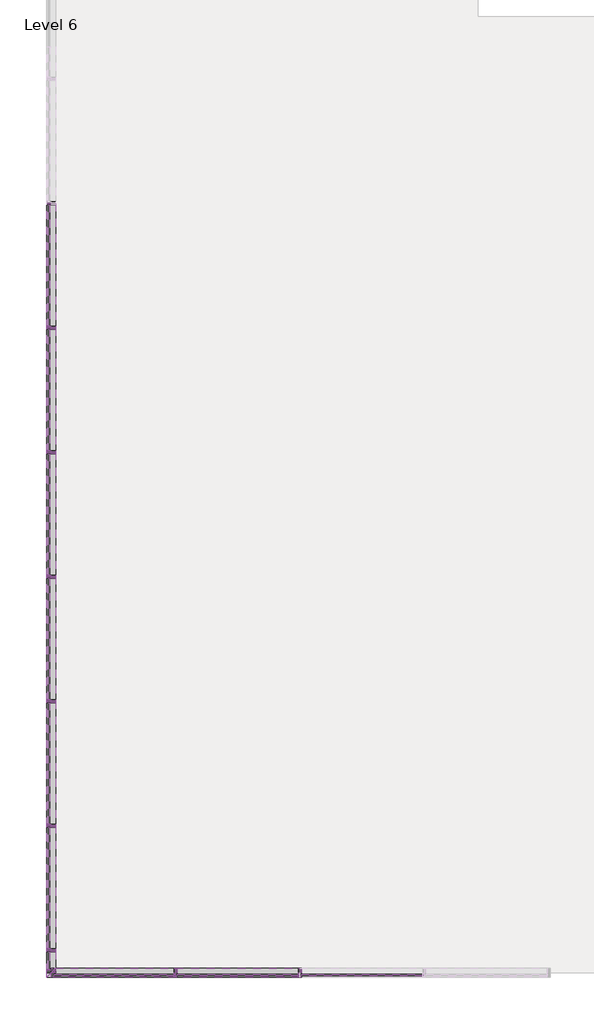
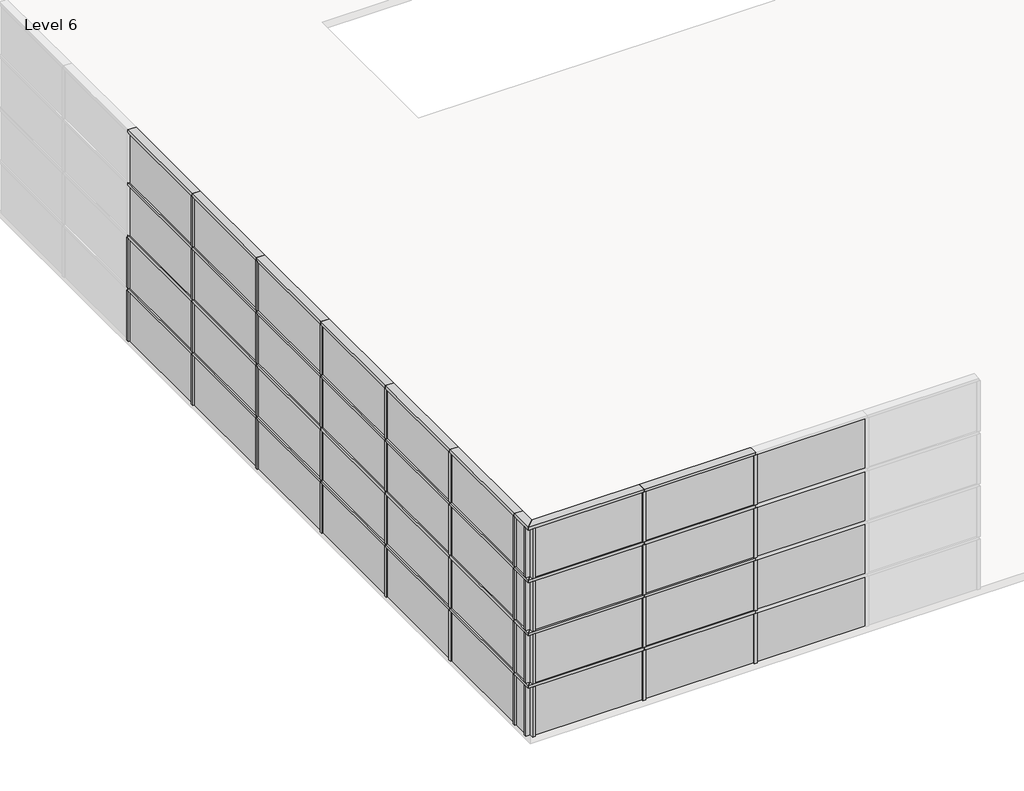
# One storey, part 1 of 5: 78 members, 40 plates.
"""IFC4 building model written with IfcOpenShell, lengths in millimetres."""

from ifc_helpers import new_model, si_unit, origin, place, context, project, spatial, transform, mapped, element, save
from components import rectangular_mullion_50_x_150mm_a053b0ca, rectangular_mullion_50_x_150mm_3a148f0f, rectangular_mullion_50_x_150mm_12a430f9, rectangular_mullion_50_x_150mm_cc09da6b, rectangular_mullion_50_x_150mm_947845bb, system_panel_glazed_751a585c, system_panel_glazed_08de6f5f, system_panel_glazed_9a47c754

model = new_model("IFC4")

# Units and contexts
model_context = context("Model", 3, world=origin())
ifc_project = project(units=[si_unit("LENGTHUNIT", "METRE", prefix="MILLI")], contexts=[model_context])

# Site, building, storey
site = spatial("IfcSite", under=ifc_project)
building = spatial("IfcBuilding", under=site)
storey = spatial("IfcBuildingStorey", under=building, Name="Level 6", Elevation=20000.0)

# Members
placement = place(None, origin())
rectangular_mullion_50_x_150mm_shape = rectangular_mullion_50_x_150mm_a053b0ca(model_context)
element("IfcMember", 1, ObjectType="Rectangular Mullion : 50 x 150mm", at=placement, inside=storey, context=model_context, shape_type="MappedRepresentation", body=[
    mapped(rectangular_mullion_50_x_150mm_shape, transform((-3587.173406, -21988.7417365, 20025.0), x_axis=(1.0, 0.0, 0.0), y_axis=(0.0, -1.0, 0.0), z_axis=(0.0, 0.0, -0.9999999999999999))),
])
element("IfcMember", 2, ObjectType="Rectangular Mullion : 50 x 150mm", at=placement, inside=storey, context=model_context, shape_type="MappedRepresentation", body=[
    mapped(rectangular_mullion_50_x_150mm_shape, transform((-3587.173406, -21988.7417365, 21025.0), x_axis=(1.0, 0.0, 0.0), y_axis=(0.0, -1.0, 0.0), z_axis=(0.0, 0.0, -0.9999999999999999))),
])
element("IfcMember", 3, ObjectType="Rectangular Mullion : 50 x 150mm", at=placement, inside=storey, context=model_context, shape_type="MappedRepresentation", body=[
    mapped(rectangular_mullion_50_x_150mm_shape, transform((-3587.173406, -21988.7417365, 22025.0), x_axis=(1.0, 0.0, 0.0), y_axis=(0.0, -1.0, 0.0), z_axis=(0.0, 0.0, -0.9999999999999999))),
])
element("IfcMember", 4, ObjectType="Rectangular Mullion : 50 x 150mm", at=placement, inside=storey, context=model_context, shape_type="MappedRepresentation", body=[
    mapped(rectangular_mullion_50_x_150mm_shape, transform((-3587.173406, -21988.7417365, 23025.0), x_axis=(1.0, 0.0, 0.0), y_axis=(0.0, -1.0, 0.0), z_axis=(0.0, 0.0, -0.9999999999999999))),
])
element("IfcMember", 5, ObjectType="Rectangular Mullion : 50 x 150mm", at=placement, inside=storey, context=model_context, shape_type="MappedRepresentation", body=[
    mapped(rectangular_mullion_50_x_150mm_shape, transform((-1587.173406, -21988.7417365, 20025.0), x_axis=(1.0, 0.0, 0.0), y_axis=(0.0, -1.0, 0.0), z_axis=(0.0, 0.0, -0.9999999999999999))),
])
element("IfcMember", 6, ObjectType="Rectangular Mullion : 50 x 150mm", at=placement, inside=storey, context=model_context, shape_type="MappedRepresentation", body=[
    mapped(rectangular_mullion_50_x_150mm_shape, transform((-1587.173406, -21988.7417365, 21025.0), x_axis=(1.0, 0.0, 0.0), y_axis=(0.0, -1.0, 0.0), z_axis=(0.0, 0.0, -0.9999999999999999))),
])
element("IfcMember", 7, ObjectType="Rectangular Mullion : 50 x 150mm", at=placement, inside=storey, context=model_context, shape_type="MappedRepresentation", body=[
    mapped(rectangular_mullion_50_x_150mm_shape, transform((-1587.173406, -21988.7417365, 22025.0), x_axis=(1.0, 0.0, 0.0), y_axis=(0.0, -1.0, 0.0), z_axis=(0.0, 0.0, -0.9999999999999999))),
])
element("IfcMember", 8, ObjectType="Rectangular Mullion : 50 x 150mm", at=placement, inside=storey, context=model_context, shape_type="MappedRepresentation", body=[
    mapped(rectangular_mullion_50_x_150mm_shape, transform((-1587.173406, -21988.7417365, 23025.0), x_axis=(1.0, 0.0, 0.0), y_axis=(0.0, -1.0, 0.0), z_axis=(0.0, 0.0, -0.9999999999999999))),
])
element("IfcMember", 9, ObjectType="Rectangular Mullion : 50 x 150mm", at=placement, inside=storey, context=model_context, shape_type="MappedRepresentation", body=[
    mapped(rectangular_mullion_50_x_150mm_shape, transform((-5587.173406, -9624.0160434, 20025.0), x_axis=(0.0, -1.0, 0.0), y_axis=(-1.0, 0.0, 0.0), z_axis=(0.0, 0.0, -0.9999999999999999))),
])
element("IfcMember", 10, ObjectType="Rectangular Mullion : 50 x 150mm", at=placement, inside=storey, context=model_context, shape_type="MappedRepresentation", body=[
    mapped(rectangular_mullion_50_x_150mm_shape, transform((-5587.173406, -9624.0160434, 21025.0), x_axis=(0.0, -1.0, 0.0), y_axis=(-1.0, 0.0, 0.0), z_axis=(0.0, 0.0, -0.9999999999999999))),
])
element("IfcMember", 11, ObjectType="Rectangular Mullion : 50 x 150mm", at=placement, inside=storey, context=model_context, shape_type="MappedRepresentation", body=[
    mapped(rectangular_mullion_50_x_150mm_shape, transform((-5587.173406, -11624.0160434, 20025.0), x_axis=(0.0, -1.0, 0.0), y_axis=(-1.0, 0.0, 0.0), z_axis=(0.0, 0.0, -0.9999999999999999))),
])
element("IfcMember", 12, ObjectType="Rectangular Mullion : 50 x 150mm", at=placement, inside=storey, context=model_context, shape_type="MappedRepresentation", body=[
    mapped(rectangular_mullion_50_x_150mm_shape, transform((-5587.173406, -11624.0160434, 21025.0), x_axis=(0.0, -1.0, 0.0), y_axis=(-1.0, 0.0, 0.0), z_axis=(0.0, 0.0, -0.9999999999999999))),
])
element("IfcMember", 13, ObjectType="Rectangular Mullion : 50 x 150mm", at=placement, inside=storey, context=model_context, shape_type="MappedRepresentation", body=[
    mapped(rectangular_mullion_50_x_150mm_shape, transform((-5587.173406, -11624.0160434, 22025.0), x_axis=(0.0, -1.0, 0.0), y_axis=(-1.0, 0.0, 0.0), z_axis=(0.0, 0.0, -0.9999999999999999))),
])
element("IfcMember", 14, ObjectType="Rectangular Mullion : 50 x 150mm", at=placement, inside=storey, context=model_context, shape_type="MappedRepresentation", body=[
    mapped(rectangular_mullion_50_x_150mm_shape, transform((-5587.173406, -11624.0160434, 23025.0), x_axis=(0.0, -1.0, 0.0), y_axis=(-1.0, 0.0, 0.0), z_axis=(0.0, 0.0, -0.9999999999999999))),
])
element("IfcMember", 15, ObjectType="Rectangular Mullion : 50 x 150mm", at=placement, inside=storey, context=model_context, shape_type="MappedRepresentation", body=[
    mapped(rectangular_mullion_50_x_150mm_shape, transform((-5587.173406, -13624.0160434, 20025.0), x_axis=(0.0, -1.0, 0.0), y_axis=(-1.0, 0.0, 0.0), z_axis=(0.0, 0.0, -0.9999999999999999))),
])
element("IfcMember", 16, ObjectType="Rectangular Mullion : 50 x 150mm", at=placement, inside=storey, context=model_context, shape_type="MappedRepresentation", body=[
    mapped(rectangular_mullion_50_x_150mm_shape, transform((-5587.173406, -13624.0160434, 21025.0), x_axis=(0.0, -1.0, 0.0), y_axis=(-1.0, 0.0, 0.0), z_axis=(0.0, 0.0, -0.9999999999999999))),
])
element("IfcMember", 17, ObjectType="Rectangular Mullion : 50 x 150mm", at=placement, inside=storey, context=model_context, shape_type="MappedRepresentation", body=[
    mapped(rectangular_mullion_50_x_150mm_shape, transform((-5587.173406, -13624.0160434, 22025.0), x_axis=(0.0, -1.0, 0.0), y_axis=(-1.0, 0.0, 0.0), z_axis=(0.0, 0.0, -0.9999999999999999))),
])
element("IfcMember", 18, ObjectType="Rectangular Mullion : 50 x 150mm", at=placement, inside=storey, context=model_context, shape_type="MappedRepresentation", body=[
    mapped(rectangular_mullion_50_x_150mm_shape, transform((-5587.173406, -13624.0160434, 23025.0), x_axis=(0.0, -1.0, 0.0), y_axis=(-1.0, 0.0, 0.0), z_axis=(0.0, 0.0, -0.9999999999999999))),
])
element("IfcMember", 19, ObjectType="Rectangular Mullion : 50 x 150mm", at=placement, inside=storey, context=model_context, shape_type="MappedRepresentation", body=[
    mapped(rectangular_mullion_50_x_150mm_shape, transform((-5587.173406, -15624.0160434, 20025.0), x_axis=(0.0, -1.0, 0.0), y_axis=(-1.0, 0.0, 0.0), z_axis=(0.0, 0.0, -0.9999999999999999))),
])
element("IfcMember", 20, ObjectType="Rectangular Mullion : 50 x 150mm", at=placement, inside=storey, context=model_context, shape_type="MappedRepresentation", body=[
    mapped(rectangular_mullion_50_x_150mm_shape, transform((-5587.173406, -15624.0160434, 21025.0), x_axis=(0.0, -1.0, 0.0), y_axis=(-1.0, 0.0, 0.0), z_axis=(0.0, 0.0, -0.9999999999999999))),
])
element("IfcMember", 21, ObjectType="Rectangular Mullion : 50 x 150mm", at=placement, inside=storey, context=model_context, shape_type="MappedRepresentation", body=[
    mapped(rectangular_mullion_50_x_150mm_shape, transform((-5587.173406, -15624.0160434, 22025.0), x_axis=(0.0, -1.0, 0.0), y_axis=(-1.0, 0.0, 0.0), z_axis=(0.0, 0.0, -0.9999999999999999))),
])
element("IfcMember", 22, ObjectType="Rectangular Mullion : 50 x 150mm", at=placement, inside=storey, context=model_context, shape_type="MappedRepresentation", body=[
    mapped(rectangular_mullion_50_x_150mm_shape, transform((-5587.173406, -15624.0160434, 23025.0), x_axis=(0.0, -1.0, 0.0), y_axis=(-1.0, 0.0, 0.0), z_axis=(0.0, 0.0, -0.9999999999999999))),
])
element("IfcMember", 23, ObjectType="Rectangular Mullion : 50 x 150mm", at=placement, inside=storey, context=model_context, shape_type="MappedRepresentation", body=[
    mapped(rectangular_mullion_50_x_150mm_shape, transform((-5587.173406, -17624.0160434, 20025.0), x_axis=(0.0, -1.0, 0.0), y_axis=(-1.0, 0.0, 0.0), z_axis=(0.0, 0.0, -0.9999999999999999))),
])
element("IfcMember", 24, ObjectType="Rectangular Mullion : 50 x 150mm", at=placement, inside=storey, context=model_context, shape_type="MappedRepresentation", body=[
    mapped(rectangular_mullion_50_x_150mm_shape, transform((-5587.173406, -17624.0160434, 21025.0), x_axis=(0.0, -1.0, 0.0), y_axis=(-1.0, 0.0, 0.0), z_axis=(0.0, 0.0, -0.9999999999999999))),
])
element("IfcMember", 25, ObjectType="Rectangular Mullion : 50 x 150mm", at=placement, inside=storey, context=model_context, shape_type="MappedRepresentation", body=[
    mapped(rectangular_mullion_50_x_150mm_shape, transform((-5587.173406, -17624.0160434, 22025.0), x_axis=(0.0, -1.0, 0.0), y_axis=(-1.0, 0.0, 0.0), z_axis=(0.0, 0.0, -0.9999999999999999))),
])
element("IfcMember", 26, ObjectType="Rectangular Mullion : 50 x 150mm", at=placement, inside=storey, context=model_context, shape_type="MappedRepresentation", body=[
    mapped(rectangular_mullion_50_x_150mm_shape, transform((-5587.173406, -17624.0160434, 23025.0), x_axis=(0.0, -1.0, 0.0), y_axis=(-1.0, 0.0, 0.0), z_axis=(0.0, 0.0, -0.9999999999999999))),
])
element("IfcMember", 27, ObjectType="Rectangular Mullion : 50 x 150mm", at=placement, inside=storey, context=model_context, shape_type="MappedRepresentation", body=[
    mapped(rectangular_mullion_50_x_150mm_shape, transform((-5587.173406, -19624.0160434, 20025.0), x_axis=(0.0, -1.0, 0.0), y_axis=(-1.0, 0.0, 0.0), z_axis=(0.0, 0.0, -0.9999999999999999))),
])
element("IfcMember", 28, ObjectType="Rectangular Mullion : 50 x 150mm", at=placement, inside=storey, context=model_context, shape_type="MappedRepresentation", body=[
    mapped(rectangular_mullion_50_x_150mm_shape, transform((-5587.173406, -19624.0160434, 21025.0), x_axis=(0.0, -1.0, 0.0), y_axis=(-1.0, 0.0, 0.0), z_axis=(0.0, 0.0, -0.9999999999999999))),
])
element("IfcMember", 29, ObjectType="Rectangular Mullion : 50 x 150mm", at=placement, inside=storey, context=model_context, shape_type="MappedRepresentation", body=[
    mapped(rectangular_mullion_50_x_150mm_shape, transform((-5587.173406, -19624.0160434, 22025.0), x_axis=(0.0, -1.0, 0.0), y_axis=(-1.0, 0.0, 0.0), z_axis=(0.0, 0.0, -0.9999999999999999))),
])
element("IfcMember", 30, ObjectType="Rectangular Mullion : 50 x 150mm", at=placement, inside=storey, context=model_context, shape_type="MappedRepresentation", body=[
    mapped(rectangular_mullion_50_x_150mm_shape, transform((-5587.173406, -19624.0160434, 23025.0), x_axis=(0.0, -1.0, 0.0), y_axis=(-1.0, 0.0, 0.0), z_axis=(0.0, 0.0, -0.9999999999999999))),
])
element("IfcMember", 31, ObjectType="Rectangular Mullion : 50 x 150mm", at=placement, inside=storey, context=model_context, shape_type="MappedRepresentation", body=[
    mapped(rectangular_mullion_50_x_150mm_shape, transform((-5587.173406, -21624.0160434, 20025.0), x_axis=(0.0, -1.0, 0.0), y_axis=(-1.0, 0.0, 0.0), z_axis=(0.0, 0.0, -0.9999999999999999))),
])
element("IfcMember", 32, ObjectType="Rectangular Mullion : 50 x 150mm", at=placement, inside=storey, context=model_context, shape_type="MappedRepresentation", body=[
    mapped(rectangular_mullion_50_x_150mm_shape, transform((-5587.173406, -21624.0160434, 21025.0), x_axis=(0.0, -1.0, 0.0), y_axis=(-1.0, 0.0, 0.0), z_axis=(0.0, 0.0, -0.9999999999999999))),
])
element("IfcMember", 33, ObjectType="Rectangular Mullion : 50 x 150mm", at=placement, inside=storey, context=model_context, shape_type="MappedRepresentation", body=[
    mapped(rectangular_mullion_50_x_150mm_shape, transform((-5587.173406, -21624.0160434, 22025.0), x_axis=(0.0, -1.0, 0.0), y_axis=(-1.0, 0.0, 0.0), z_axis=(0.0, 0.0, -0.9999999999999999))),
])
element("IfcMember", 34, ObjectType="Rectangular Mullion : 50 x 150mm", at=placement, inside=storey, context=model_context, shape_type="MappedRepresentation", body=[
    mapped(rectangular_mullion_50_x_150mm_shape, transform((-5587.173406, -21624.0160434, 23025.0), x_axis=(0.0, -1.0, 0.0), y_axis=(-1.0, 0.0, 0.0), z_axis=(0.0, 0.0, -0.9999999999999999))),
])
rectangular_mullion_50_x_150mm_2_shape = rectangular_mullion_50_x_150mm_3a148f0f(model_context)
element("IfcMember", 35, ObjectType="Rectangular Mullion : 50 x 150mm", at=placement, inside=storey, context=model_context, shape_type="MappedRepresentation", body=[
    mapped(rectangular_mullion_50_x_150mm_2_shape, transform((-1587.173406, -21988.7417365, 21000.0), x_axis=(0.0, 0.0, 1.0), y_axis=(0.0, -1.0, 0.0), z_axis=(1.0, 0.0, 0.0))),
])
element("IfcMember", 36, ObjectType="Rectangular Mullion : 50 x 150mm", at=placement, inside=storey, context=model_context, shape_type="MappedRepresentation", body=[
    mapped(rectangular_mullion_50_x_150mm_2_shape, transform((-1587.173406, -21988.7417365, 22000.0), x_axis=(0.0, 0.0, 1.0), y_axis=(0.0, -1.0, 0.0), z_axis=(1.0, 0.0, 0.0))),
])
element("IfcMember", 37, ObjectType="Rectangular Mullion : 50 x 150mm", at=placement, inside=storey, context=model_context, shape_type="MappedRepresentation", body=[
    mapped(rectangular_mullion_50_x_150mm_2_shape, transform((-1587.173406, -21988.7417365, 23000.0), x_axis=(0.0, 0.0, 1.0), y_axis=(0.0, -1.0, 0.0), z_axis=(1.0, 0.0, 0.0))),
])
element("IfcMember", 38, ObjectType="Rectangular Mullion : 50 x 150mm", at=placement, inside=storey, context=model_context, shape_type="MappedRepresentation", body=[
    mapped(rectangular_mullion_50_x_150mm_2_shape, transform((-1587.173406, -21988.7417365, 24000.0), x_axis=(0.0, 0.0, 1.0), y_axis=(0.0, -1.0, 0.0), z_axis=(1.0, 0.0, 0.0))),
])
element("IfcMember", 39, ObjectType="Rectangular Mullion : 50 x 150mm", at=placement, inside=storey, context=model_context, shape_type="MappedRepresentation", body=[
    mapped(rectangular_mullion_50_x_150mm_2_shape, transform((-5587.173406, -11624.0160434, 21000.0), x_axis=(0.0, 0.0, 1.0), y_axis=(-1.0, 0.0, 0.0), z_axis=(0.0, -1.0, 0.0))),
])
element("IfcMember", 40, ObjectType="Rectangular Mullion : 50 x 150mm", at=placement, inside=storey, context=model_context, shape_type="MappedRepresentation", body=[
    mapped(rectangular_mullion_50_x_150mm_2_shape, transform((-5587.173406, -13624.0160434, 21000.0), x_axis=(0.0, 0.0, 1.0), y_axis=(-1.0, 0.0, 0.0), z_axis=(0.0, -1.0, 0.0))),
])
element("IfcMember", 41, ObjectType="Rectangular Mullion : 50 x 150mm", at=placement, inside=storey, context=model_context, shape_type="MappedRepresentation", body=[
    mapped(rectangular_mullion_50_x_150mm_2_shape, transform((-5587.173406, -15624.0160434, 21000.0), x_axis=(0.0, 0.0, 1.0), y_axis=(-1.0, 0.0, 0.0), z_axis=(0.0, -1.0, 0.0))),
])
element("IfcMember", 42, ObjectType="Rectangular Mullion : 50 x 150mm", at=placement, inside=storey, context=model_context, shape_type="MappedRepresentation", body=[
    mapped(rectangular_mullion_50_x_150mm_2_shape, transform((-5587.173406, -17624.0160434, 21000.0), x_axis=(0.0, 0.0, 1.0), y_axis=(-1.0, 0.0, 0.0), z_axis=(0.0, -1.0, 0.0))),
])
element("IfcMember", 43, ObjectType="Rectangular Mullion : 50 x 150mm", at=placement, inside=storey, context=model_context, shape_type="MappedRepresentation", body=[
    mapped(rectangular_mullion_50_x_150mm_2_shape, transform((-5587.173406, -19624.0160434, 21000.0), x_axis=(0.0, 0.0, 1.0), y_axis=(-1.0, 0.0, 0.0), z_axis=(0.0, -1.0, 0.0))),
])
element("IfcMember", 44, ObjectType="Rectangular Mullion : 50 x 150mm", at=placement, inside=storey, context=model_context, shape_type="MappedRepresentation", body=[
    mapped(rectangular_mullion_50_x_150mm_2_shape, transform((-5587.173406, -21624.0160434, 21000.0), x_axis=(0.0, 0.0, 1.0), y_axis=(-1.0, 0.0, 0.0), z_axis=(0.0, -1.0, 0.0))),
])
element("IfcMember", 45, ObjectType="Rectangular Mullion : 50 x 150mm", at=placement, inside=storey, context=model_context, shape_type="MappedRepresentation", body=[
    mapped(rectangular_mullion_50_x_150mm_2_shape, transform((-5587.173406, -11624.0160434, 22000.0), x_axis=(0.0, 0.0, 1.0), y_axis=(-1.0, 0.0, 0.0), z_axis=(0.0, -1.0, 0.0))),
])
element("IfcMember", 46, ObjectType="Rectangular Mullion : 50 x 150mm", at=placement, inside=storey, context=model_context, shape_type="MappedRepresentation", body=[
    mapped(rectangular_mullion_50_x_150mm_2_shape, transform((-5587.173406, -13624.0160434, 22000.0), x_axis=(0.0, 0.0, 1.0), y_axis=(-1.0, 0.0, 0.0), z_axis=(0.0, -1.0, 0.0))),
])
element("IfcMember", 47, ObjectType="Rectangular Mullion : 50 x 150mm", at=placement, inside=storey, context=model_context, shape_type="MappedRepresentation", body=[
    mapped(rectangular_mullion_50_x_150mm_2_shape, transform((-5587.173406, -15624.0160434, 22000.0), x_axis=(0.0, 0.0, 1.0), y_axis=(-1.0, 0.0, 0.0), z_axis=(0.0, -1.0, 0.0))),
])
element("IfcMember", 48, ObjectType="Rectangular Mullion : 50 x 150mm", at=placement, inside=storey, context=model_context, shape_type="MappedRepresentation", body=[
    mapped(rectangular_mullion_50_x_150mm_2_shape, transform((-5587.173406, -17624.0160434, 22000.0), x_axis=(0.0, 0.0, 1.0), y_axis=(-1.0, 0.0, 0.0), z_axis=(0.0, -1.0, 0.0))),
])
element("IfcMember", 49, ObjectType="Rectangular Mullion : 50 x 150mm", at=placement, inside=storey, context=model_context, shape_type="MappedRepresentation", body=[
    mapped(rectangular_mullion_50_x_150mm_2_shape, transform((-5587.173406, -19624.0160434, 22000.0), x_axis=(0.0, 0.0, 1.0), y_axis=(-1.0, 0.0, 0.0), z_axis=(0.0, -1.0, 0.0))),
])
element("IfcMember", 50, ObjectType="Rectangular Mullion : 50 x 150mm", at=placement, inside=storey, context=model_context, shape_type="MappedRepresentation", body=[
    mapped(rectangular_mullion_50_x_150mm_2_shape, transform((-5587.173406, -21624.0160434, 22000.0), x_axis=(0.0, 0.0, 1.0), y_axis=(-1.0, 0.0, 0.0), z_axis=(0.0, -1.0, 0.0))),
])
element("IfcMember", 51, ObjectType="Rectangular Mullion : 50 x 150mm", at=placement, inside=storey, context=model_context, shape_type="MappedRepresentation", body=[
    mapped(rectangular_mullion_50_x_150mm_2_shape, transform((-5587.173406, -11624.0160434, 23000.0), x_axis=(0.0, 0.0, 1.0), y_axis=(-1.0, 0.0, 0.0), z_axis=(0.0, -1.0, 0.0))),
])
element("IfcMember", 52, ObjectType="Rectangular Mullion : 50 x 150mm", at=placement, inside=storey, context=model_context, shape_type="MappedRepresentation", body=[
    mapped(rectangular_mullion_50_x_150mm_2_shape, transform((-5587.173406, -13624.0160434, 23000.0), x_axis=(0.0, 0.0, 1.0), y_axis=(-1.0, 0.0, 0.0), z_axis=(0.0, -1.0, 0.0))),
])
element("IfcMember", 53, ObjectType="Rectangular Mullion : 50 x 150mm", at=placement, inside=storey, context=model_context, shape_type="MappedRepresentation", body=[
    mapped(rectangular_mullion_50_x_150mm_2_shape, transform((-5587.173406, -15624.0160434, 23000.0), x_axis=(0.0, 0.0, 1.0), y_axis=(-1.0, 0.0, 0.0), z_axis=(0.0, -1.0, 0.0))),
])
element("IfcMember", 54, ObjectType="Rectangular Mullion : 50 x 150mm", at=placement, inside=storey, context=model_context, shape_type="MappedRepresentation", body=[
    mapped(rectangular_mullion_50_x_150mm_2_shape, transform((-5587.173406, -17624.0160434, 23000.0), x_axis=(0.0, 0.0, 1.0), y_axis=(-1.0, 0.0, 0.0), z_axis=(0.0, -1.0, 0.0))),
])
element("IfcMember", 55, ObjectType="Rectangular Mullion : 50 x 150mm", at=placement, inside=storey, context=model_context, shape_type="MappedRepresentation", body=[
    mapped(rectangular_mullion_50_x_150mm_2_shape, transform((-5587.173406, -19624.0160434, 23000.0), x_axis=(0.0, 0.0, 1.0), y_axis=(-1.0, 0.0, 0.0), z_axis=(0.0, -1.0, 0.0))),
])
element("IfcMember", 56, ObjectType="Rectangular Mullion : 50 x 150mm", at=placement, inside=storey, context=model_context, shape_type="MappedRepresentation", body=[
    mapped(rectangular_mullion_50_x_150mm_2_shape, transform((-5587.173406, -21624.0160434, 23000.0), x_axis=(0.0, 0.0, 1.0), y_axis=(-1.0, 0.0, 0.0), z_axis=(0.0, -1.0, 0.0))),
])
element("IfcMember", 57, ObjectType="Rectangular Mullion : 50 x 150mm", at=placement, inside=storey, context=model_context, shape_type="MappedRepresentation", body=[
    mapped(rectangular_mullion_50_x_150mm_2_shape, transform((-5587.173406, -11624.0160434, 24000.0), x_axis=(0.0, 0.0, 1.0), y_axis=(-1.0, 0.0, 0.0), z_axis=(0.0, -1.0, 0.0))),
])
element("IfcMember", 58, ObjectType="Rectangular Mullion : 50 x 150mm", at=placement, inside=storey, context=model_context, shape_type="MappedRepresentation", body=[
    mapped(rectangular_mullion_50_x_150mm_2_shape, transform((-5587.173406, -13624.0160434, 24000.0), x_axis=(0.0, 0.0, 1.0), y_axis=(-1.0, 0.0, 0.0), z_axis=(0.0, -1.0, 0.0))),
])
element("IfcMember", 59, ObjectType="Rectangular Mullion : 50 x 150mm", at=placement, inside=storey, context=model_context, shape_type="MappedRepresentation", body=[
    mapped(rectangular_mullion_50_x_150mm_2_shape, transform((-5587.173406, -15624.0160434, 24000.0), x_axis=(0.0, 0.0, 1.0), y_axis=(-1.0, 0.0, 0.0), z_axis=(0.0, -1.0, 0.0))),
])
element("IfcMember", 60, ObjectType="Rectangular Mullion : 50 x 150mm", at=placement, inside=storey, context=model_context, shape_type="MappedRepresentation", body=[
    mapped(rectangular_mullion_50_x_150mm_2_shape, transform((-5587.173406, -17624.0160434, 24000.0), x_axis=(0.0, 0.0, 1.0), y_axis=(-1.0, 0.0, 0.0), z_axis=(0.0, -1.0, 0.0))),
])
element("IfcMember", 61, ObjectType="Rectangular Mullion : 50 x 150mm", at=placement, inside=storey, context=model_context, shape_type="MappedRepresentation", body=[
    mapped(rectangular_mullion_50_x_150mm_2_shape, transform((-5587.173406, -19624.0160434, 24000.0), x_axis=(0.0, 0.0, 1.0), y_axis=(-1.0, 0.0, 0.0), z_axis=(0.0, -1.0, 0.0))),
])
element("IfcMember", 62, ObjectType="Rectangular Mullion : 50 x 150mm", at=placement, inside=storey, context=model_context, shape_type="MappedRepresentation", body=[
    mapped(rectangular_mullion_50_x_150mm_2_shape, transform((-5587.173406, -21624.0160434, 24000.0), x_axis=(0.0, 0.0, 1.0), y_axis=(-1.0, 0.0, 0.0), z_axis=(0.0, -1.0, 0.0))),
])
rectangular_mullion_50_x_150mm_3_shape = rectangular_mullion_50_x_150mm_12a430f9(model_context)
element("IfcMember", 63, ObjectType="Rectangular Mullion : 50 x 150mm", at=placement, inside=storey, context=model_context, shape_type="MappedRepresentation", body=[
    mapped(rectangular_mullion_50_x_150mm_3_shape, transform((-5587.173406, -21988.7417365, 20975.0), x_axis=(-1.0, 0.0, 0.0), y_axis=(0.0, -1.0, 0.0), z_axis=(0.0, 0.0, 0.9999999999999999))),
])
element("IfcMember", 64, ObjectType="Rectangular Mullion : 50 x 150mm", at=placement, inside=storey, context=model_context, shape_type="MappedRepresentation", body=[
    mapped(rectangular_mullion_50_x_150mm_3_shape, transform((-5587.173406, -21988.7417365, 21975.0), x_axis=(-1.0, 0.0, 0.0), y_axis=(0.0, -1.0, 0.0), z_axis=(0.0, 0.0, 0.9999999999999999))),
])
element("IfcMember", 65, ObjectType="Rectangular Mullion : 50 x 150mm", at=placement, inside=storey, context=model_context, shape_type="MappedRepresentation", body=[
    mapped(rectangular_mullion_50_x_150mm_3_shape, transform((-5587.173406, -21988.7417365, 22975.0), x_axis=(-1.0, 0.0, 0.0), y_axis=(0.0, -1.0, 0.0), z_axis=(0.0, 0.0, 0.9999999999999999))),
])
element("IfcMember", 66, ObjectType="Rectangular Mullion : 50 x 150mm", at=placement, inside=storey, context=model_context, shape_type="MappedRepresentation", body=[
    mapped(rectangular_mullion_50_x_150mm_3_shape, transform((-5587.173406, -21988.7417365, 23975.0), x_axis=(-1.0, 0.0, 0.0), y_axis=(0.0, -1.0, 0.0), z_axis=(0.0, 0.0, 0.9999999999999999))),
])
element("IfcMember", 67, ObjectType="Rectangular Mullion : 50 x 150mm", at=placement, inside=storey, context=model_context, shape_type="MappedRepresentation", body=[
    mapped(rectangular_mullion_50_x_150mm_3_shape, transform((-5587.173406, -21988.7417365, 20025.0), x_axis=(0.0, -1.0, 0.0), y_axis=(-1.0, 0.0, 0.0), z_axis=(0.0, 0.0, -0.9999999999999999))),
])
element("IfcMember", 68, ObjectType="Rectangular Mullion : 50 x 150mm", at=placement, inside=storey, context=model_context, shape_type="MappedRepresentation", body=[
    mapped(rectangular_mullion_50_x_150mm_3_shape, transform((-5587.173406, -21988.7417365, 21025.0), x_axis=(0.0, -1.0, 0.0), y_axis=(-1.0, 0.0, 0.0), z_axis=(0.0, 0.0, -0.9999999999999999))),
])
element("IfcMember", 69, ObjectType="Rectangular Mullion : 50 x 150mm", at=placement, inside=storey, context=model_context, shape_type="MappedRepresentation", body=[
    mapped(rectangular_mullion_50_x_150mm_3_shape, transform((-5587.173406, -21988.7417365, 22025.0), x_axis=(0.0, -1.0, 0.0), y_axis=(-1.0, 0.0, 0.0), z_axis=(0.0, 0.0, -0.9999999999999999))),
])
element("IfcMember", 70, ObjectType="Rectangular Mullion : 50 x 150mm", at=placement, inside=storey, context=model_context, shape_type="MappedRepresentation", body=[
    mapped(rectangular_mullion_50_x_150mm_3_shape, transform((-5587.173406, -21988.7417365, 23025.0), x_axis=(0.0, -1.0, 0.0), y_axis=(-1.0, 0.0, 0.0), z_axis=(0.0, 0.0, -0.9999999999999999))),
])
rectangular_mullion_50_x_150mm_4_shape = rectangular_mullion_50_x_150mm_cc09da6b(model_context)
element("IfcMember", 71, ObjectType="Rectangular Mullion : 50 x 150mm", at=placement, inside=storey, context=model_context, shape_type="MappedRepresentation", body=[
    mapped(rectangular_mullion_50_x_150mm_4_shape, transform((-5587.173406, -21988.7417365, 21000.0), x_axis=(0.0, 0.0, 1.0), y_axis=(-1.0, 0.0, 0.0), z_axis=(0.0, -1.0, 0.0))),
])
element("IfcMember", 72, ObjectType="Rectangular Mullion : 50 x 150mm", at=placement, inside=storey, context=model_context, shape_type="MappedRepresentation", body=[
    mapped(rectangular_mullion_50_x_150mm_4_shape, transform((-5587.173406, -21988.7417365, 22000.0), x_axis=(0.0, 0.0, 1.0), y_axis=(-1.0, 0.0, 0.0), z_axis=(0.0, -1.0, 0.0))),
])
element("IfcMember", 73, ObjectType="Rectangular Mullion : 50 x 150mm", at=placement, inside=storey, context=model_context, shape_type="MappedRepresentation", body=[
    mapped(rectangular_mullion_50_x_150mm_4_shape, transform((-5587.173406, -21988.7417365, 23000.0), x_axis=(0.0, 0.0, 1.0), y_axis=(-1.0, 0.0, 0.0), z_axis=(0.0, -1.0, 0.0))),
])
element("IfcMember", 74, ObjectType="Rectangular Mullion : 50 x 150mm", at=placement, inside=storey, context=model_context, shape_type="MappedRepresentation", body=[
    mapped(rectangular_mullion_50_x_150mm_4_shape, transform((-5587.173406, -21988.7417365, 24000.0), x_axis=(0.0, 0.0, 1.0), y_axis=(-1.0, 0.0, 0.0), z_axis=(0.0, -1.0, 0.0))),
])
rectangular_mullion_50_x_150mm_5_shape = rectangular_mullion_50_x_150mm_947845bb(model_context)
element("IfcMember", 75, ObjectType="Rectangular Mullion : 50 x 150mm", at=placement, inside=storey, context=model_context, shape_type="MappedRepresentation", body=[
    mapped(rectangular_mullion_50_x_150mm_5_shape, transform((-3587.173406, -21988.7417365, 21000.0), x_axis=(0.0, 0.0, 1.0), y_axis=(0.0, -1.0, 0.0), z_axis=(1.0, 0.0, 0.0))),
])
element("IfcMember", 76, ObjectType="Rectangular Mullion : 50 x 150mm", at=placement, inside=storey, context=model_context, shape_type="MappedRepresentation", body=[
    mapped(rectangular_mullion_50_x_150mm_5_shape, transform((-3587.173406, -21988.7417365, 22000.0), x_axis=(0.0, 0.0, 1.0), y_axis=(0.0, -1.0, 0.0), z_axis=(1.0, 0.0, 0.0))),
])
element("IfcMember", 77, ObjectType="Rectangular Mullion : 50 x 150mm", at=placement, inside=storey, context=model_context, shape_type="MappedRepresentation", body=[
    mapped(rectangular_mullion_50_x_150mm_5_shape, transform((-3587.173406, -21988.7417365, 23000.0), x_axis=(0.0, 0.0, 1.0), y_axis=(0.0, -1.0, 0.0), z_axis=(1.0, 0.0, 0.0))),
])
element("IfcMember", 78, ObjectType="Rectangular Mullion : 50 x 150mm", at=placement, inside=storey, context=model_context, shape_type="MappedRepresentation", body=[
    mapped(rectangular_mullion_50_x_150mm_5_shape, transform((-3587.173406, -21988.7417365, 24000.0), x_axis=(0.0, 0.0, 1.0), y_axis=(0.0, -1.0, 0.0), z_axis=(1.0, 0.0, 0.0))),
])

# Plates
system_panel_glazed_shape = system_panel_glazed_751a585c(model_context)
element("IfcPlate", 79, ObjectType="System Panel : Glazed", at=placement, inside=storey, context=model_context, shape_type="MappedRepresentation", body=[
    mapped(system_panel_glazed_shape, transform((-5537.173406, -21988.7417365, 20500.0), x_axis=(0.0, 0.0, 1.0), y_axis=(0.0, -1.0, 0.0), z_axis=(1.0, 0.0, 0.0))),
])
element("IfcPlate", 80, ObjectType="System Panel : Glazed", at=placement, inside=storey, context=model_context, shape_type="MappedRepresentation", body=[
    mapped(system_panel_glazed_shape, transform((-5537.173406, -21988.7417365, 21500.0), x_axis=(0.0, 0.0, 1.0), y_axis=(0.0, -1.0, 0.0), z_axis=(1.0, 0.0, 0.0))),
])
element("IfcPlate", 81, ObjectType="System Panel : Glazed", at=placement, inside=storey, context=model_context, shape_type="MappedRepresentation", body=[
    mapped(system_panel_glazed_shape, transform((-5537.173406, -21988.7417365, 22500.0), x_axis=(0.0, 0.0, 1.0), y_axis=(0.0, -1.0, 0.0), z_axis=(1.0, 0.0, 0.0))),
])
element("IfcPlate", 82, ObjectType="System Panel : Glazed", at=placement, inside=storey, context=model_context, shape_type="MappedRepresentation", body=[
    mapped(system_panel_glazed_shape, transform((-5537.173406, -21988.7417365, 23500.0), x_axis=(0.0, 0.0, 1.0), y_axis=(0.0, -1.0, 0.0), z_axis=(1.0, 0.0, 0.0))),
])
system_panel_glazed_2_shape = system_panel_glazed_08de6f5f(model_context)
element("IfcPlate", 83, ObjectType="System Panel : Glazed", at=placement, inside=storey, context=model_context, shape_type="MappedRepresentation", body=[
    mapped(system_panel_glazed_2_shape, transform((-5587.173406, -9649.0160434, 20500.0), x_axis=(0.0, 0.0, 1.0), y_axis=(-1.0, 0.0, 0.0), z_axis=(0.0, -1.0, 0.0))),
])
element("IfcPlate", 84, ObjectType="System Panel : Glazed", at=placement, inside=storey, context=model_context, shape_type="MappedRepresentation", body=[
    mapped(system_panel_glazed_2_shape, transform((-5587.173406, -11649.0160434, 20500.0), x_axis=(0.0, 0.0, 1.0), y_axis=(-1.0, 0.0, 0.0), z_axis=(0.0, -1.0, 0.0))),
])
element("IfcPlate", 85, ObjectType="System Panel : Glazed", at=placement, inside=storey, context=model_context, shape_type="MappedRepresentation", body=[
    mapped(system_panel_glazed_2_shape, transform((-5587.173406, -13649.0160434, 20500.0), x_axis=(0.0, 0.0, 1.0), y_axis=(-1.0, 0.0, 0.0), z_axis=(0.0, -1.0, 0.0))),
])
element("IfcPlate", 86, ObjectType="System Panel : Glazed", at=placement, inside=storey, context=model_context, shape_type="MappedRepresentation", body=[
    mapped(system_panel_glazed_2_shape, transform((-5587.173406, -15649.0160434, 20500.0), x_axis=(0.0, 0.0, 1.0), y_axis=(-1.0, 0.0, 0.0), z_axis=(0.0, -1.0, 0.0))),
])
element("IfcPlate", 87, ObjectType="System Panel : Glazed", at=placement, inside=storey, context=model_context, shape_type="MappedRepresentation", body=[
    mapped(system_panel_glazed_2_shape, transform((-5587.173406, -17649.0160434, 20500.0), x_axis=(0.0, 0.0, 1.0), y_axis=(-1.0, 0.0, 0.0), z_axis=(0.0, -1.0, 0.0))),
])
element("IfcPlate", 88, ObjectType="System Panel : Glazed", at=placement, inside=storey, context=model_context, shape_type="MappedRepresentation", body=[
    mapped(system_panel_glazed_2_shape, transform((-5587.173406, -19649.0160434, 20500.0), x_axis=(0.0, 0.0, 1.0), y_axis=(-1.0, 0.0, 0.0), z_axis=(0.0, -1.0, 0.0))),
])
element("IfcPlate", 89, ObjectType="System Panel : Glazed", at=placement, inside=storey, context=model_context, shape_type="MappedRepresentation", body=[
    mapped(system_panel_glazed_2_shape, transform((-5587.173406, -9649.0160434, 21500.0), x_axis=(0.0, 0.0, 1.0), y_axis=(-1.0, 0.0, 0.0), z_axis=(0.0, -1.0, 0.0))),
])
element("IfcPlate", 90, ObjectType="System Panel : Glazed", at=placement, inside=storey, context=model_context, shape_type="MappedRepresentation", body=[
    mapped(system_panel_glazed_2_shape, transform((-5587.173406, -11649.0160434, 21500.0), x_axis=(0.0, 0.0, 1.0), y_axis=(-1.0, 0.0, 0.0), z_axis=(0.0, -1.0, 0.0))),
])
element("IfcPlate", 91, ObjectType="System Panel : Glazed", at=placement, inside=storey, context=model_context, shape_type="MappedRepresentation", body=[
    mapped(system_panel_glazed_2_shape, transform((-5587.173406, -13649.0160434, 21500.0), x_axis=(0.0, 0.0, 1.0), y_axis=(-1.0, 0.0, 0.0), z_axis=(0.0, -1.0, 0.0))),
])
element("IfcPlate", 92, ObjectType="System Panel : Glazed", at=placement, inside=storey, context=model_context, shape_type="MappedRepresentation", body=[
    mapped(system_panel_glazed_2_shape, transform((-5587.173406, -15649.0160434, 21500.0), x_axis=(0.0, 0.0, 1.0), y_axis=(-1.0, 0.0, 0.0), z_axis=(0.0, -1.0, 0.0))),
])
element("IfcPlate", 93, ObjectType="System Panel : Glazed", at=placement, inside=storey, context=model_context, shape_type="MappedRepresentation", body=[
    mapped(system_panel_glazed_2_shape, transform((-5587.173406, -17649.0160434, 21500.0), x_axis=(0.0, 0.0, 1.0), y_axis=(-1.0, 0.0, 0.0), z_axis=(0.0, -1.0, 0.0))),
])
element("IfcPlate", 94, ObjectType="System Panel : Glazed", at=placement, inside=storey, context=model_context, shape_type="MappedRepresentation", body=[
    mapped(system_panel_glazed_2_shape, transform((-5587.173406, -19649.0160434, 21500.0), x_axis=(0.0, 0.0, 1.0), y_axis=(-1.0, 0.0, 0.0), z_axis=(0.0, -1.0, 0.0))),
])
element("IfcPlate", 95, ObjectType="System Panel : Glazed", at=placement, inside=storey, context=model_context, shape_type="MappedRepresentation", body=[
    mapped(system_panel_glazed_2_shape, transform((-3562.173406, -21988.7417365, 20500.0), x_axis=(0.0, 0.0, 1.0), y_axis=(0.0, -1.0, 0.0), z_axis=(1.0, 0.0, 0.0))),
])
element("IfcPlate", 96, ObjectType="System Panel : Glazed", at=placement, inside=storey, context=model_context, shape_type="MappedRepresentation", body=[
    mapped(system_panel_glazed_2_shape, transform((-1562.173406, -21988.7417365, 20500.0), x_axis=(0.0, 0.0, 1.0), y_axis=(0.0, -1.0, 0.0), z_axis=(1.0, 0.0, 0.0))),
])
element("IfcPlate", 97, ObjectType="System Panel : Glazed", at=placement, inside=storey, context=model_context, shape_type="MappedRepresentation", body=[
    mapped(system_panel_glazed_2_shape, transform((-3562.173406, -21988.7417365, 21500.0), x_axis=(0.0, 0.0, 1.0), y_axis=(0.0, -1.0, 0.0), z_axis=(1.0, 0.0, 0.0))),
])
element("IfcPlate", 98, ObjectType="System Panel : Glazed", at=placement, inside=storey, context=model_context, shape_type="MappedRepresentation", body=[
    mapped(system_panel_glazed_2_shape, transform((-1562.173406, -21988.7417365, 21500.0), x_axis=(0.0, 0.0, 1.0), y_axis=(0.0, -1.0, 0.0), z_axis=(1.0, 0.0, 0.0))),
])
element("IfcPlate", 99, ObjectType="System Panel : Glazed", at=placement, inside=storey, context=model_context, shape_type="MappedRepresentation", body=[
    mapped(system_panel_glazed_2_shape, transform((-5587.173406, -9649.0160434, 22500.0), x_axis=(0.0, 0.0, 1.0), y_axis=(-1.0, 0.0, 0.0), z_axis=(0.0, -1.0, 0.0))),
])
element("IfcPlate", 100, ObjectType="System Panel : Glazed", at=placement, inside=storey, context=model_context, shape_type="MappedRepresentation", body=[
    mapped(system_panel_glazed_2_shape, transform((-5587.173406, -11649.0160434, 22500.0), x_axis=(0.0, 0.0, 1.0), y_axis=(-1.0, 0.0, 0.0), z_axis=(0.0, -1.0, 0.0))),
])
element("IfcPlate", 101, ObjectType="System Panel : Glazed", at=placement, inside=storey, context=model_context, shape_type="MappedRepresentation", body=[
    mapped(system_panel_glazed_2_shape, transform((-5587.173406, -13649.0160434, 22500.0), x_axis=(0.0, 0.0, 1.0), y_axis=(-1.0, 0.0, 0.0), z_axis=(0.0, -1.0, 0.0))),
])
element("IfcPlate", 102, ObjectType="System Panel : Glazed", at=placement, inside=storey, context=model_context, shape_type="MappedRepresentation", body=[
    mapped(system_panel_glazed_2_shape, transform((-5587.173406, -15649.0160434, 22500.0), x_axis=(0.0, 0.0, 1.0), y_axis=(-1.0, 0.0, 0.0), z_axis=(0.0, -1.0, 0.0))),
])
element("IfcPlate", 103, ObjectType="System Panel : Glazed", at=placement, inside=storey, context=model_context, shape_type="MappedRepresentation", body=[
    mapped(system_panel_glazed_2_shape, transform((-5587.173406, -17649.0160434, 22500.0), x_axis=(0.0, 0.0, 1.0), y_axis=(-1.0, 0.0, 0.0), z_axis=(0.0, -1.0, 0.0))),
])
element("IfcPlate", 104, ObjectType="System Panel : Glazed", at=placement, inside=storey, context=model_context, shape_type="MappedRepresentation", body=[
    mapped(system_panel_glazed_2_shape, transform((-5587.173406, -19649.0160434, 22500.0), x_axis=(0.0, 0.0, 1.0), y_axis=(-1.0, 0.0, 0.0), z_axis=(0.0, -1.0, 0.0))),
])
element("IfcPlate", 105, ObjectType="System Panel : Glazed", at=placement, inside=storey, context=model_context, shape_type="MappedRepresentation", body=[
    mapped(system_panel_glazed_2_shape, transform((-5587.173406, -9649.0160434, 23500.0), x_axis=(0.0, 0.0, 1.0), y_axis=(-1.0, 0.0, 0.0), z_axis=(0.0, -1.0, 0.0))),
])
element("IfcPlate", 106, ObjectType="System Panel : Glazed", at=placement, inside=storey, context=model_context, shape_type="MappedRepresentation", body=[
    mapped(system_panel_glazed_2_shape, transform((-5587.173406, -11649.0160434, 23500.0), x_axis=(0.0, 0.0, 1.0), y_axis=(-1.0, 0.0, 0.0), z_axis=(0.0, -1.0, 0.0))),
])
element("IfcPlate", 107, ObjectType="System Panel : Glazed", at=placement, inside=storey, context=model_context, shape_type="MappedRepresentation", body=[
    mapped(system_panel_glazed_2_shape, transform((-5587.173406, -13649.0160434, 23500.0), x_axis=(0.0, 0.0, 1.0), y_axis=(-1.0, 0.0, 0.0), z_axis=(0.0, -1.0, 0.0))),
])
element("IfcPlate", 108, ObjectType="System Panel : Glazed", at=placement, inside=storey, context=model_context, shape_type="MappedRepresentation", body=[
    mapped(system_panel_glazed_2_shape, transform((-5587.173406, -15649.0160434, 23500.0), x_axis=(0.0, 0.0, 1.0), y_axis=(-1.0, 0.0, 0.0), z_axis=(0.0, -1.0, 0.0))),
])
element("IfcPlate", 109, ObjectType="System Panel : Glazed", at=placement, inside=storey, context=model_context, shape_type="MappedRepresentation", body=[
    mapped(system_panel_glazed_2_shape, transform((-5587.173406, -17649.0160434, 23500.0), x_axis=(0.0, 0.0, 1.0), y_axis=(-1.0, 0.0, 0.0), z_axis=(0.0, -1.0, 0.0))),
])
element("IfcPlate", 110, ObjectType="System Panel : Glazed", at=placement, inside=storey, context=model_context, shape_type="MappedRepresentation", body=[
    mapped(system_panel_glazed_2_shape, transform((-5587.173406, -19649.0160434, 23500.0), x_axis=(0.0, 0.0, 1.0), y_axis=(-1.0, 0.0, 0.0), z_axis=(0.0, -1.0, 0.0))),
])
element("IfcPlate", 111, ObjectType="System Panel : Glazed", at=placement, inside=storey, context=model_context, shape_type="MappedRepresentation", body=[
    mapped(system_panel_glazed_2_shape, transform((-3562.173406, -21988.7417365, 22500.0), x_axis=(0.0, 0.0, 1.0), y_axis=(0.0, -1.0, 0.0), z_axis=(1.0, 0.0, 0.0))),
])
element("IfcPlate", 112, ObjectType="System Panel : Glazed", at=placement, inside=storey, context=model_context, shape_type="MappedRepresentation", body=[
    mapped(system_panel_glazed_2_shape, transform((-1562.173406, -21988.7417365, 22500.0), x_axis=(0.0, 0.0, 1.0), y_axis=(0.0, -1.0, 0.0), z_axis=(1.0, 0.0, 0.0))),
])
element("IfcPlate", 113, ObjectType="System Panel : Glazed", at=placement, inside=storey, context=model_context, shape_type="MappedRepresentation", body=[
    mapped(system_panel_glazed_2_shape, transform((-3562.173406, -21988.7417365, 23500.0), x_axis=(0.0, 0.0, 1.0), y_axis=(0.0, -1.0, 0.0), z_axis=(1.0, 0.0, 0.0))),
])
element("IfcPlate", 114, ObjectType="System Panel : Glazed", at=placement, inside=storey, context=model_context, shape_type="MappedRepresentation", body=[
    mapped(system_panel_glazed_2_shape, transform((-1562.173406, -21988.7417365, 23500.0), x_axis=(0.0, 0.0, 1.0), y_axis=(0.0, -1.0, 0.0), z_axis=(1.0, 0.0, 0.0))),
])
system_panel_glazed_3_shape = system_panel_glazed_9a47c754(model_context)
element("IfcPlate", 115, ObjectType="System Panel : Glazed", at=placement, inside=storey, context=model_context, shape_type="MappedRepresentation", body=[
    mapped(system_panel_glazed_3_shape, transform((-5587.173406, -21649.0160434, 20500.0), x_axis=(0.0, 0.0, 1.0), y_axis=(-1.0, 0.0, 0.0), z_axis=(0.0, -1.0, 0.0))),
])
element("IfcPlate", 116, ObjectType="System Panel : Glazed", at=placement, inside=storey, context=model_context, shape_type="MappedRepresentation", body=[
    mapped(system_panel_glazed_3_shape, transform((-5587.173406, -21649.0160434, 21500.0), x_axis=(0.0, 0.0, 1.0), y_axis=(-1.0, 0.0, 0.0), z_axis=(0.0, -1.0, 0.0))),
])
element("IfcPlate", 117, ObjectType="System Panel : Glazed", at=placement, inside=storey, context=model_context, shape_type="MappedRepresentation", body=[
    mapped(system_panel_glazed_3_shape, transform((-5587.173406, -21649.0160434, 22500.0), x_axis=(0.0, 0.0, 1.0), y_axis=(-1.0, 0.0, 0.0), z_axis=(0.0, -1.0, 0.0))),
])
element("IfcPlate", 118, ObjectType="System Panel : Glazed", at=placement, inside=storey, context=model_context, shape_type="MappedRepresentation", body=[
    mapped(system_panel_glazed_3_shape, transform((-5587.173406, -21649.0160434, 23500.0), x_axis=(0.0, 0.0, 1.0), y_axis=(-1.0, 0.0, 0.0), z_axis=(0.0, -1.0, 0.0))),
])

save(model, "model.ifc")
